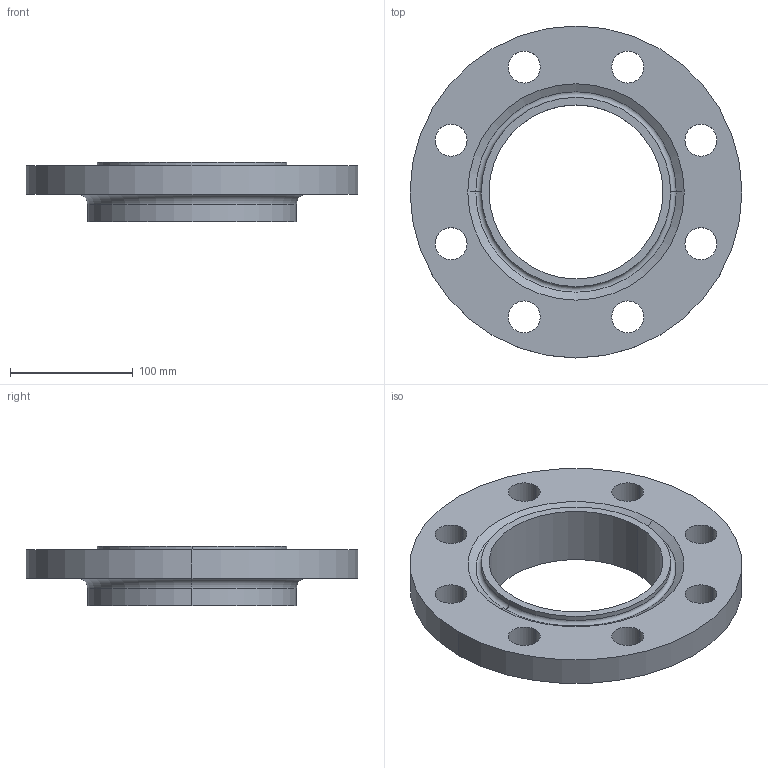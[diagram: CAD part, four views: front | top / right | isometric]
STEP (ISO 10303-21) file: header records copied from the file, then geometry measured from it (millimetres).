
FILE_DESCRIPTION (( 'STEP AP214' ), '1' );
FILE_NAME ('PN40 DN125 Type 12 - Type H Face.STEP', '2019-01-02T02:10:41', ( '' ), ( '' ), 'SwSTEP 2.0', 'SolidWorks 2019', '' );
FILE_SCHEMA (( 'AUTOMOTIVE_DESIGN' ));
Length unit declared in the file: millimetre
Products named in the file (1): PN40 DN125 Type 12 - Type H Face
Bounding box: 270 x 270 x 48 mm (x, y, z)
Volume: 1028233.5 mm3; surface area: 144571.1 mm2
Topology: 1 solids, 1 shells, 34 faces, 84 edges, 54 vertices
Faces by surface type: cylinder 24, torus 4, plane 4, cone 2
Entity records: 1108 total; most frequent: DIRECTION 212, CARTESIAN_POINT 173, ORIENTED_EDGE 168, AXIS2_PLACEMENT_3D 93, EDGE_CURVE 84, CIRCLE 58, EDGE_LOOP 54, VERTEX_POINT 54
